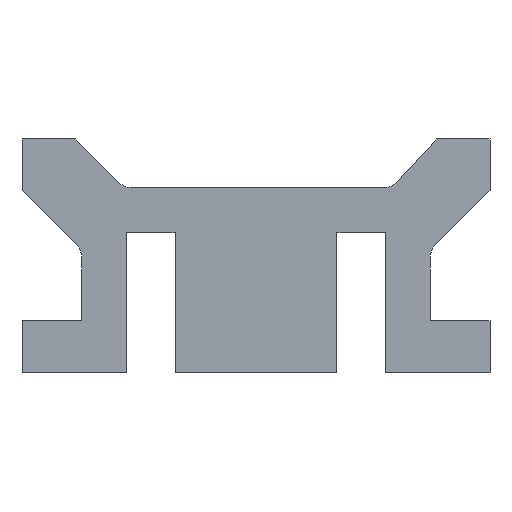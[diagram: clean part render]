
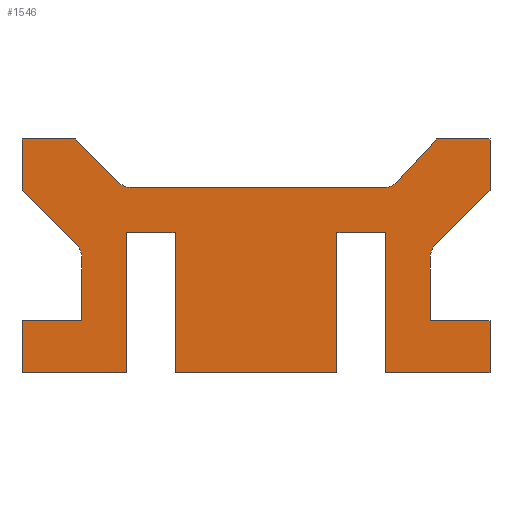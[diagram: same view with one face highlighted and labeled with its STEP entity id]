
A CAD part, front view. The second image highlights one B-rep face of the part: STEP entity #1546.
In plain terms, the highlighted planar face has unit normal (0, -1, 0).
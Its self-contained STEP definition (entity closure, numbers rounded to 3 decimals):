
#1=DIRECTION('',(-0.707,0.,0.707));
#2=VECTOR('',#1,6.525);
#3=CARTESIAN_POINT('',(-14.686,-300.,-4.614));
#4=LINE('',#3,#2);
#5=DIRECTION('',(-1.,0.,0.));
#6=VECTOR('',#5,26.896);
#7=CARTESIAN_POINT('',(13.624,-300.,-5.2));
#8=LINE('',#7,#6);
#9=DIRECTION('',(-0.678,0.,-0.735));
#10=VECTOR('',#9,6.201);
#11=CARTESIAN_POINT('',(19.3,-300.,0.));
#12=LINE('',#11,#10);
#13=DIRECTION('',(1.,0.,0.));
#14=VECTOR('',#13,5.7);
#15=CARTESIAN_POINT('',(19.3,-300.,0.));
#16=LINE('',#15,#14);
#17=DIRECTION('',(0.,0.,-1.));
#18=VECTOR('',#17,5.472);
#19=CARTESIAN_POINT('',(25.,-300.,0.));
#20=LINE('',#19,#18);
#21=DIRECTION('',(0.707,0.,0.707));
#22=VECTOR('',#21,8.223);
#23=CARTESIAN_POINT('',(19.186,-300.,-11.287));
#24=LINE('',#23,#22);
#25=DIRECTION('',(0.,0.,1.));
#26=VECTOR('',#25,6.699);
#27=CARTESIAN_POINT('',(18.6,-300.,-19.4));
#28=LINE('',#27,#26);
#29=DIRECTION('',(-1.,0.,0.));
#30=VECTOR('',#29,6.4);
#31=CARTESIAN_POINT('',(25.,-300.,-19.4));
#32=LINE('',#31,#30);
#33=DIRECTION('',(0.,0.,-1.));
#34=VECTOR('',#33,5.6);
#35=CARTESIAN_POINT('',(25.,-300.,-19.4));
#36=LINE('',#35,#34);
#37=DIRECTION('',(-1.,0.,0.));
#38=VECTOR('',#37,11.15);
#39=CARTESIAN_POINT('',(25.,-300.,-25.));
#40=LINE('',#39,#38);
#41=DIRECTION('',(0.,0.,1.));
#42=VECTOR('',#41,15.);
#43=CARTESIAN_POINT('',(13.85,-300.,-25.));
#44=LINE('',#43,#42);
#45=DIRECTION('',(1.,0.,0.));
#46=VECTOR('',#45,5.2);
#47=CARTESIAN_POINT('',(8.65,-300.,-10.));
#48=LINE('',#47,#46);
#49=DIRECTION('',(0.,0.,1.));
#50=VECTOR('',#49,15.);
#51=CARTESIAN_POINT('',(8.65,-300.,-25.));
#52=LINE('',#51,#50);
#53=DIRECTION('',(-1.,0.,0.));
#54=VECTOR('',#53,17.3);
#55=CARTESIAN_POINT('',(8.65,-300.,-25.));
#56=LINE('',#55,#54);
#57=DIRECTION('',(0.,0.,1.));
#58=VECTOR('',#57,15.);
#59=CARTESIAN_POINT('',(-8.65,-300.,-25.));
#60=LINE('',#59,#58);
#61=DIRECTION('',(1.,0.,0.));
#62=VECTOR('',#61,5.2);
#63=CARTESIAN_POINT('',(-13.85,-300.,-10.));
#64=LINE('',#63,#62);
#65=DIRECTION('',(0.,0.,1.));
#66=VECTOR('',#65,15.);
#67=CARTESIAN_POINT('',(-13.85,-300.,-25.));
#68=LINE('',#67,#66);
#69=DIRECTION('',(-1.,0.,0.));
#70=VECTOR('',#69,11.15);
#71=CARTESIAN_POINT('',(-13.85,-300.,-25.));
#72=LINE('',#71,#70);
#73=DIRECTION('',(0.,0.,1.));
#74=VECTOR('',#73,5.6);
#75=CARTESIAN_POINT('',(-25.,-300.,-25.));
#76=LINE('',#75,#74);
#77=DIRECTION('',(1.,0.,0.));
#78=VECTOR('',#77,6.4);
#79=CARTESIAN_POINT('',(-25.,-300.,-19.4));
#80=LINE('',#79,#78);
#81=DIRECTION('',(0.,0.,-1.));
#82=VECTOR('',#81,6.699);
#83=CARTESIAN_POINT('',(-18.6,-300.,-12.701));
#84=LINE('',#83,#82);
#85=DIRECTION('',(0.707,0.,-0.707));
#86=VECTOR('',#85,8.223);
#87=CARTESIAN_POINT('',(-25.,-300.,-5.472));
#88=LINE('',#87,#86);
#89=DIRECTION('',(0.,0.,1.));
#90=VECTOR('',#89,5.472);
#91=CARTESIAN_POINT('',(-25.,-300.,-5.472));
#92=LINE('',#91,#90);
#93=DIRECTION('',(1.,0.,0.));
#94=VECTOR('',#93,5.7);
#95=CARTESIAN_POINT('',(-25.,-300.,0.));
#96=LINE('',#95,#94);
#106=CARTESIAN_POINT('',(-13.272,-300.,-3.2));
#107=DIRECTION('',(0.,1.,0.));
#108=DIRECTION('',(0.,0.,-1.));
#109=AXIS2_PLACEMENT_3D('',#106,#107,#108);
#324=CARTESIAN_POINT('',(13.624,-300.,-3.2));
#325=DIRECTION('',(0.,1.,0.));
#326=DIRECTION('',(0.735,0.,-0.678));
#327=AXIS2_PLACEMENT_3D('',#324,#325,#326);
#366=CARTESIAN_POINT('',(-20.6,-300.,-12.701));
#367=DIRECTION('',(0.,1.,0.));
#368=DIRECTION('',(0.707,0.,0.707));
#369=AXIS2_PLACEMENT_3D('',#366,#367,#368);
#544=CARTESIAN_POINT('',(20.6,-300.,-12.701));
#545=DIRECTION('',(0.,1.,0.));
#546=DIRECTION('',(-1.,0.,0.));
#547=AXIS2_PLACEMENT_3D('',#544,#545,#546);
#1151=CARTESIAN_POINT('',(-25.,-300.,0.));
#1153=VERTEX_POINT('',#1151);
#1155=CARTESIAN_POINT('',(25.,-300.,0.));
#1157=VERTEX_POINT('',#1155);
#1159=CARTESIAN_POINT('',(25.,-300.,-25.));
#1161=VERTEX_POINT('',#1159);
#1163=CARTESIAN_POINT('',(-25.,-300.,-25.));
#1165=VERTEX_POINT('',#1163);
#1167=CARTESIAN_POINT('',(-13.85,-300.,-25.));
#1168=CARTESIAN_POINT('',(-13.85,-300.,-10.));
#1169=VERTEX_POINT('',#1167);
#1170=VERTEX_POINT('',#1168);
#1171=CARTESIAN_POINT('',(-8.65,-300.,-10.));
#1172=VERTEX_POINT('',#1171);
#1173=CARTESIAN_POINT('',(-8.65,-300.,-25.));
#1174=VERTEX_POINT('',#1173);
#1175=CARTESIAN_POINT('',(-25.,-300.,-19.4));
#1176=CARTESIAN_POINT('',(-18.6,-300.,-19.4));
#1177=VERTEX_POINT('',#1175);
#1178=VERTEX_POINT('',#1176);
#1179=CARTESIAN_POINT('',(8.65,-300.,-25.));
#1180=CARTESIAN_POINT('',(8.65,-300.,-10.));
#1181=VERTEX_POINT('',#1179);
#1182=VERTEX_POINT('',#1180);
#1183=CARTESIAN_POINT('',(13.85,-300.,-10.));
#1184=VERTEX_POINT('',#1183);
#1185=CARTESIAN_POINT('',(13.85,-300.,-25.));
#1186=VERTEX_POINT('',#1185);
#1187=CARTESIAN_POINT('',(25.,-300.,-19.4));
#1188=CARTESIAN_POINT('',(18.6,-300.,-19.4));
#1189=VERTEX_POINT('',#1187);
#1190=VERTEX_POINT('',#1188);
#1215=CARTESIAN_POINT('',(-19.3,-300.,0.));
#1217=VERTEX_POINT('',#1215);
#1219=CARTESIAN_POINT('',(19.3,-300.,0.));
#1221=VERTEX_POINT('',#1219);
#1223=CARTESIAN_POINT('',(25.,-300.,-5.472));
#1225=VERTEX_POINT('',#1223);
#1227=CARTESIAN_POINT('',(-25.,-300.,-5.472));
#1229=VERTEX_POINT('',#1227);
#1268=CARTESIAN_POINT('',(13.624,-300.,-5.2));
#1270=VERTEX_POINT('',#1268);
#1272=CARTESIAN_POINT('',(15.094,-300.,-4.557));
#1274=VERTEX_POINT('',#1272);
#1276=CARTESIAN_POINT('',(-14.686,-300.,-4.614));
#1278=VERTEX_POINT('',#1276);
#1280=CARTESIAN_POINT('',(-13.272,-300.,-5.2));
#1282=VERTEX_POINT('',#1280);
#1284=CARTESIAN_POINT('',(19.186,-300.,-11.287));
#1286=VERTEX_POINT('',#1284);
#1288=CARTESIAN_POINT('',(18.6,-300.,-12.701));
#1290=VERTEX_POINT('',#1288);
#1292=CARTESIAN_POINT('',(-18.6,-300.,-12.701));
#1294=VERTEX_POINT('',#1292);
#1296=CARTESIAN_POINT('',(-19.186,-300.,-11.287));
#1298=VERTEX_POINT('',#1296);
#1483=CARTESIAN_POINT('',(0.,-300.,0.));
#1484=DIRECTION('',(0.,1.,0.));
#1485=DIRECTION('',(1.,0.,0.));
#1486=AXIS2_PLACEMENT_3D('',#1483,#1484,#1485);
#1487=PLANE('',#1486);
#1489=ORIENTED_EDGE('',*,*,#1488,.F.);
#1491=ORIENTED_EDGE('',*,*,#1490,.F.);
#1493=ORIENTED_EDGE('',*,*,#1492,.F.);
#1495=ORIENTED_EDGE('',*,*,#1494,.F.);
#1497=ORIENTED_EDGE('',*,*,#1496,.F.);
#1499=ORIENTED_EDGE('',*,*,#1498,.T.);
#1501=ORIENTED_EDGE('',*,*,#1500,.T.);
#1503=ORIENTED_EDGE('',*,*,#1502,.F.);
#1505=ORIENTED_EDGE('',*,*,#1504,.F.);
#1507=ORIENTED_EDGE('',*,*,#1506,.F.);
#1509=ORIENTED_EDGE('',*,*,#1508,.F.);
#1511=ORIENTED_EDGE('',*,*,#1510,.T.);
#1513=ORIENTED_EDGE('',*,*,#1512,.T.);
#1515=ORIENTED_EDGE('',*,*,#1514,.T.);
#1517=ORIENTED_EDGE('',*,*,#1516,.F.);
#1519=ORIENTED_EDGE('',*,*,#1518,.F.);
#1521=ORIENTED_EDGE('',*,*,#1520,.T.);
#1523=ORIENTED_EDGE('',*,*,#1522,.T.);
#1525=ORIENTED_EDGE('',*,*,#1524,.F.);
#1527=ORIENTED_EDGE('',*,*,#1526,.F.);
#1529=ORIENTED_EDGE('',*,*,#1528,.T.);
#1531=ORIENTED_EDGE('',*,*,#1530,.T.);
#1533=ORIENTED_EDGE('',*,*,#1532,.T.);
#1535=ORIENTED_EDGE('',*,*,#1534,.F.);
#1537=ORIENTED_EDGE('',*,*,#1536,.F.);
#1539=ORIENTED_EDGE('',*,*,#1538,.F.);
#1541=ORIENTED_EDGE('',*,*,#1540,.T.);
#1543=ORIENTED_EDGE('',*,*,#1542,.T.);
#1544=EDGE_LOOP('',(#1489,#1491,#1493,#1495,#1497,#1499,#1501,#1503,#1505,#1507,
#1509,#1511,#1513,#1515,#1517,#1519,#1521,#1523,#1525,#1527,#1529,#1531,#1533,
#1535,#1537,#1539,#1541,#1543));
#1545=FACE_OUTER_BOUND('',#1544,.F.);
#1546=ADVANCED_FACE('',(#1545),#1487,.F.);
#110=CIRCLE('',#109,2.);
#328=CIRCLE('',#327,2.);
#370=CIRCLE('',#369,2.);
#548=CIRCLE('',#547,2.);
#1488=EDGE_CURVE('',#1278,#1217,#4,.T.);
#1490=EDGE_CURVE('',#1282,#1278,#110,.T.);
#1492=EDGE_CURVE('',#1270,#1282,#8,.T.);
#1494=EDGE_CURVE('',#1274,#1270,#328,.T.);
#1496=EDGE_CURVE('',#1221,#1274,#12,.T.);
#1498=EDGE_CURVE('',#1221,#1157,#16,.T.);
#1500=EDGE_CURVE('',#1157,#1225,#20,.T.);
#1502=EDGE_CURVE('',#1286,#1225,#24,.T.);
#1504=EDGE_CURVE('',#1290,#1286,#548,.T.);
#1506=EDGE_CURVE('',#1190,#1290,#28,.T.);
#1508=EDGE_CURVE('',#1189,#1190,#32,.T.);
#1510=EDGE_CURVE('',#1189,#1161,#36,.T.);
#1512=EDGE_CURVE('',#1161,#1186,#40,.T.);
#1514=EDGE_CURVE('',#1186,#1184,#44,.T.);
#1516=EDGE_CURVE('',#1182,#1184,#48,.T.);
#1518=EDGE_CURVE('',#1181,#1182,#52,.T.);
#1520=EDGE_CURVE('',#1181,#1174,#56,.T.);
#1522=EDGE_CURVE('',#1174,#1172,#60,.T.);
#1524=EDGE_CURVE('',#1170,#1172,#64,.T.);
#1526=EDGE_CURVE('',#1169,#1170,#68,.T.);
#1528=EDGE_CURVE('',#1169,#1165,#72,.T.);
#1530=EDGE_CURVE('',#1165,#1177,#76,.T.);
#1532=EDGE_CURVE('',#1177,#1178,#80,.T.);
#1534=EDGE_CURVE('',#1294,#1178,#84,.T.);
#1536=EDGE_CURVE('',#1298,#1294,#370,.T.);
#1538=EDGE_CURVE('',#1229,#1298,#88,.T.);
#1540=EDGE_CURVE('',#1229,#1153,#92,.T.);
#1542=EDGE_CURVE('',#1153,#1217,#96,.T.);
